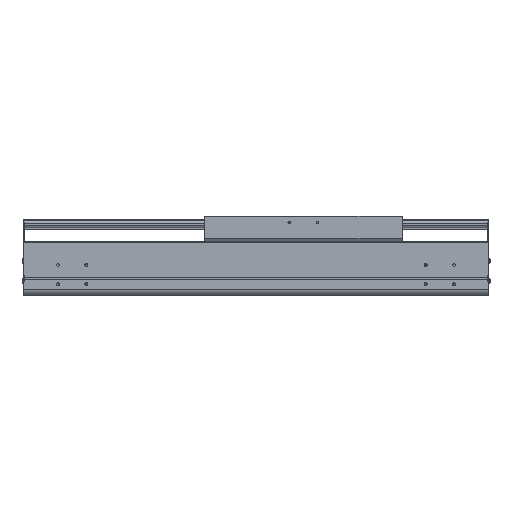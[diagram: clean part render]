
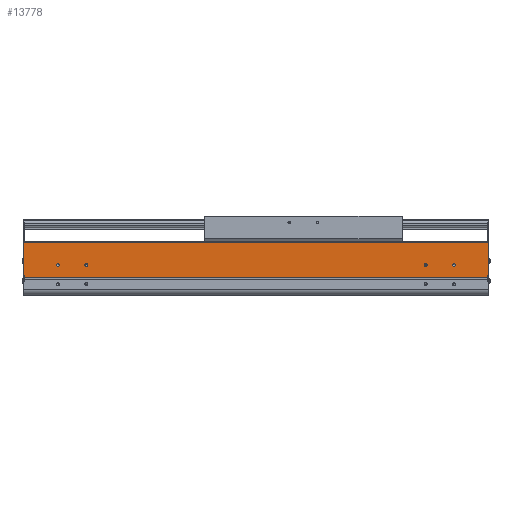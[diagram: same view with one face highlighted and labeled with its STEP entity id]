
A CAD part, top view. The second image highlights one B-rep face of the part: STEP entity #13778.
In plain terms, the highlighted planar face has unit normal (0, 0, 1).
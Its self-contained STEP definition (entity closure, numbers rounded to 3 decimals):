
#56=DIRECTION('',(0.,-1.,0.));
#57=VECTOR('',#56,2.55);
#58=CARTESIAN_POINT('',(0.,34.65,107.));
#59=LINE('',#58,#57);
#2025=DIRECTION('',(1.,0.,0.));
#2026=VECTOR('',#2025,2.);
#2027=CARTESIAN_POINT('',(0.,34.65,107.));
#2028=LINE('',#2027,#2026);
#2033=CARTESIAN_POINT('',(-59.5,54.,107.));
#2034=DIRECTION('',(0.,0.,-1.));
#2035=DIRECTION('',(1.,0.,0.));
#2036=AXIS2_PLACEMENT_3D('',#2033,#2034,#2035);
#2038=CARTESIAN_POINT('',(-59.5,54.,107.));
#2039=DIRECTION('',(0.,0.,-1.));
#2040=DIRECTION('',(-1.,0.,0.));
#2041=AXIS2_PLACEMENT_3D('',#2038,#2039,#2040);
#2043=CARTESIAN_POINT('',(-109.5,54.,107.));
#2044=DIRECTION('',(0.,0.,-1.));
#2045=DIRECTION('',(1.,0.,0.));
#2046=AXIS2_PLACEMENT_3D('',#2043,#2044,#2045);
#2048=CARTESIAN_POINT('',(-109.5,54.,107.));
#2049=DIRECTION('',(0.,0.,-1.));
#2050=DIRECTION('',(-1.,0.,0.));
#2051=AXIS2_PLACEMENT_3D('',#2048,#2049,#2050);
#2053=CARTESIAN_POINT('',(-759.5,54.,107.));
#2054=DIRECTION('',(0.,0.,-1.));
#2055=DIRECTION('',(1.,0.,0.));
#2056=AXIS2_PLACEMENT_3D('',#2053,#2054,#2055);
#2058=CARTESIAN_POINT('',(-759.5,54.,107.));
#2059=DIRECTION('',(0.,0.,-1.));
#2060=DIRECTION('',(-1.,0.,0.));
#2061=AXIS2_PLACEMENT_3D('',#2058,#2059,#2060);
#2063=CARTESIAN_POINT('',(-709.5,54.,107.));
#2064=DIRECTION('',(0.,0.,-1.));
#2065=DIRECTION('',(1.,0.,0.));
#2066=AXIS2_PLACEMENT_3D('',#2063,#2064,#2065);
#2068=CARTESIAN_POINT('',(-709.5,54.,107.));
#2069=DIRECTION('',(0.,0.,-1.));
#2070=DIRECTION('',(-1.,0.,0.));
#2071=AXIS2_PLACEMENT_3D('',#2068,#2069,#2070);
#2073=DIRECTION('',(0.,-1.,0.));
#2074=VECTOR('',#2073,2.55);
#2075=CARTESIAN_POINT('',(-819.,34.65,107.));
#2076=LINE('',#2075,#2074);
#2077=DIRECTION('',(0.,-1.,0.));
#2078=VECTOR('',#2077,58.85);
#2079=CARTESIAN_POINT('',(-821.,93.5,107.));
#2080=LINE('',#2079,#2078);
#2081=DIRECTION('',(0.,1.,0.));
#2082=VECTOR('',#2081,58.85);
#2083=CARTESIAN_POINT('',(2.,34.65,107.));
#2084=LINE('',#2083,#2082);
#2085=DIRECTION('',(1.,0.,0.));
#2086=VECTOR('',#2085,819.);
#2087=CARTESIAN_POINT('',(-819.,32.1,107.));
#2088=LINE('',#2087,#2086);
#2197=DIRECTION('',(1.,0.,0.));
#2198=VECTOR('',#2197,2.);
#2199=CARTESIAN_POINT('',(-821.,34.65,107.));
#2200=LINE('',#2199,#2198);
#3818=DIRECTION('',(-1.,0.,0.));
#3819=VECTOR('',#3818,823.);
#3820=CARTESIAN_POINT('',(2.,93.5,107.));
#3821=LINE('',#3820,#3819);
#8757=CARTESIAN_POINT('',(-821.,34.65,107.));
#8758=VERTEX_POINT('',#8757);
#8759=CARTESIAN_POINT('',(-821.,93.5,107.));
#8760=VERTEX_POINT('',#8759);
#8989=CARTESIAN_POINT('',(-819.,32.1,107.));
#8990=VERTEX_POINT('',#8989);
#9241=CARTESIAN_POINT('',(0.,32.1,107.));
#9242=VERTEX_POINT('',#9241);
#9243=CARTESIAN_POINT('',(-57.,54.,107.));
#9244=CARTESIAN_POINT('',(-62.,54.,107.));
#9245=VERTEX_POINT('',#9243);
#9246=VERTEX_POINT('',#9244);
#9247=CARTESIAN_POINT('',(-107.,54.,107.));
#9248=CARTESIAN_POINT('',(-112.,54.,107.));
#9249=VERTEX_POINT('',#9247);
#9250=VERTEX_POINT('',#9248);
#9251=CARTESIAN_POINT('',(-757.,54.,107.));
#9252=CARTESIAN_POINT('',(-762.,54.,107.));
#9253=VERTEX_POINT('',#9251);
#9254=VERTEX_POINT('',#9252);
#9255=CARTESIAN_POINT('',(-707.,54.,107.));
#9256=CARTESIAN_POINT('',(-712.,54.,107.));
#9257=VERTEX_POINT('',#9255);
#9258=VERTEX_POINT('',#9256);
#10046=CARTESIAN_POINT('',(2.,34.65,107.));
#10047=VERTEX_POINT('',#10046);
#10048=CARTESIAN_POINT('',(2.,93.5,107.));
#10049=VERTEX_POINT('',#10048);
#10500=CARTESIAN_POINT('',(0.,34.65,107.));
#10501=VERTEX_POINT('',#10500);
#10580=CARTESIAN_POINT('',(-819.,34.65,107.));
#10581=VERTEX_POINT('',#10580);
#13735=CARTESIAN_POINT('',(-409.5,62.8,107.));
#13736=DIRECTION('',(0.,0.,1.));
#13737=DIRECTION('',(0.,-1.,0.));
#13738=AXIS2_PLACEMENT_3D('',#13735,#13736,#13737);
#13739=PLANE('',#13738);
#13740=ORIENTED_EDGE('',*,*,#11737,.F.);
#13742=ORIENTED_EDGE('',*,*,#13741,.F.);
#13744=ORIENTED_EDGE('',*,*,#13743,.F.);
#13746=ORIENTED_EDGE('',*,*,#13745,.F.);
#13747=ORIENTED_EDGE('',*,*,#13533,.F.);
#13748=ORIENTED_EDGE('',*,*,#13728,.F.);
#13749=ORIENTED_EDGE('',*,*,#11357,.T.);
#13751=ORIENTED_EDGE('',*,*,#13750,.F.);
#13752=EDGE_LOOP('',(#13740,#13742,#13744,#13746,#13747,#13748,#13749,#13751));
#13753=FACE_OUTER_BOUND('',#13752,.F.);
#13755=ORIENTED_EDGE('',*,*,#13754,.F.);
#13757=ORIENTED_EDGE('',*,*,#13756,.F.);
#13758=EDGE_LOOP('',(#13755,#13757));
#13759=FACE_BOUND('',#13758,.F.);
#13761=ORIENTED_EDGE('',*,*,#13760,.F.);
#13763=ORIENTED_EDGE('',*,*,#13762,.F.);
#13764=EDGE_LOOP('',(#13761,#13763));
#13765=FACE_BOUND('',#13764,.F.);
#13767=ORIENTED_EDGE('',*,*,#13766,.F.);
#13769=ORIENTED_EDGE('',*,*,#13768,.F.);
#13770=EDGE_LOOP('',(#13767,#13769));
#13771=FACE_BOUND('',#13770,.F.);
#13773=ORIENTED_EDGE('',*,*,#13772,.F.);
#13775=ORIENTED_EDGE('',*,*,#13774,.F.);
#13776=EDGE_LOOP('',(#13773,#13775));
#13777=FACE_BOUND('',#13776,.F.);
#13778=ADVANCED_FACE('',(#13753,#13759,#13765,#13771,#13777),#13739,.T.);
#2037=CIRCLE('',#2036,2.5);
#2042=CIRCLE('',#2041,2.5);
#2047=CIRCLE('',#2046,2.5);
#2052=CIRCLE('',#2051,2.5);
#2057=CIRCLE('',#2056,2.5);
#2062=CIRCLE('',#2061,2.5);
#2067=CIRCLE('',#2066,2.5);
#2072=CIRCLE('',#2071,2.5);
#11357=EDGE_CURVE('',#10501,#9242,#59,.T.);
#11737=EDGE_CURVE('',#10581,#8990,#2076,.T.);
#13533=EDGE_CURVE('',#10047,#10049,#2084,.T.);
#13728=EDGE_CURVE('',#10501,#10047,#2028,.T.);
#13741=EDGE_CURVE('',#8758,#10581,#2200,.T.);
#13743=EDGE_CURVE('',#8760,#8758,#2080,.T.);
#13745=EDGE_CURVE('',#10049,#8760,#3821,.T.);
#13750=EDGE_CURVE('',#8990,#9242,#2088,.T.);
#13754=EDGE_CURVE('',#9249,#9250,#2047,.T.);
#13756=EDGE_CURVE('',#9250,#9249,#2052,.T.);
#13760=EDGE_CURVE('',#9253,#9254,#2057,.T.);
#13762=EDGE_CURVE('',#9254,#9253,#2062,.T.);
#13766=EDGE_CURVE('',#9257,#9258,#2067,.T.);
#13768=EDGE_CURVE('',#9258,#9257,#2072,.T.);
#13772=EDGE_CURVE('',#9245,#9246,#2037,.T.);
#13774=EDGE_CURVE('',#9246,#9245,#2042,.T.);
